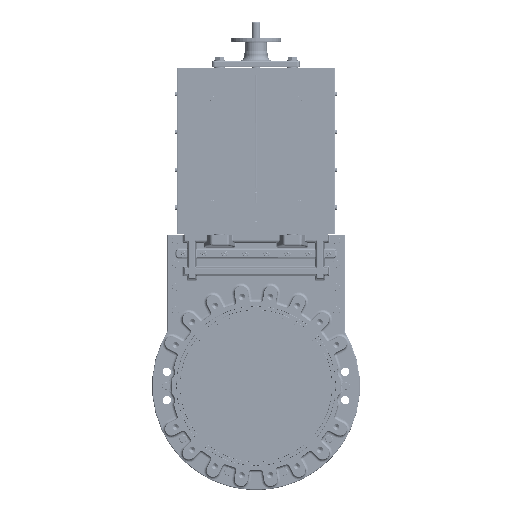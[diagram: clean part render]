
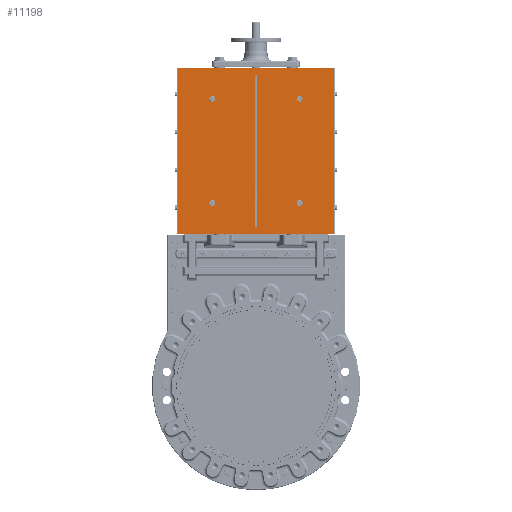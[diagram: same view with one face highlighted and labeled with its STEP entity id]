
A CAD part, top view. The second image highlights one B-rep face of the part: STEP entity #11198.
In plain terms, the highlighted planar face has unit normal (0, 0, 1).
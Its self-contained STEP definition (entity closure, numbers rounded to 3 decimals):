
#5154=PLANE('',#63007);
#11198=ADVANCED_FACE('',(#14570,#14571,#14572,#14573,#14574,#14575),#5154,
 .F.);
#14570=FACE_BOUND('',#19625,.T.);
#14571=FACE_BOUND('',#19626,.T.);
#14572=FACE_BOUND('',#19627,.T.);
#14573=FACE_BOUND('',#19628,.T.);
#14574=FACE_BOUND('',#19629,.T.);
#14575=FACE_BOUND('',#19630,.T.);
#19625=EDGE_LOOP('',(#37362));
#19626=EDGE_LOOP('',(#37363));
#19627=EDGE_LOOP('',(#37364,#37365,#37366,#37367));
#19628=EDGE_LOOP('',(#37368,#37369,#37370,#37371));
#19629=EDGE_LOOP('',(#37372));
#19630=EDGE_LOOP('',(#37373));
#22741=CIRCLE('',#62950,10.);
#22742=CIRCLE('',#62952,10.);
#22743=CIRCLE('',#62954,10.);
#22744=CIRCLE('',#62956,10.);
#22770=CIRCLE('',#63005,5.);
#22771=CIRCLE('',#63006,5.);
#37362=ORIENTED_EDGE('',*,*,#50791,.F.);
#37363=ORIENTED_EDGE('',*,*,#50790,.F.);
#37364=ORIENTED_EDGE('',*,*,#50835,.F.);
#37365=ORIENTED_EDGE('',*,*,#50832,.T.);
#37366=ORIENTED_EDGE('',*,*,#50836,.T.);
#37367=ORIENTED_EDGE('',*,*,#50827,.T.);
#37368=ORIENTED_EDGE('',*,*,#50837,.T.);
#37369=ORIENTED_EDGE('',*,*,#50838,.T.);
#37370=ORIENTED_EDGE('',*,*,#50839,.T.);
#37371=ORIENTED_EDGE('',*,*,#50840,.F.);
#37372=ORIENTED_EDGE('',*,*,#50789,.T.);
#37373=ORIENTED_EDGE('',*,*,#50788,.T.);
#43200=VERTEX_POINT('',#106173);
#43201=VERTEX_POINT('',#106176);
#43202=VERTEX_POINT('',#106179);
#43203=VERTEX_POINT('',#106182);
#43231=VERTEX_POINT('',#106265);
#43232=VERTEX_POINT('',#106267);
#43234=VERTEX_POINT('',#106272);
#43236=VERTEX_POINT('',#106276);
#43237=VERTEX_POINT('',#106285);
#43238=VERTEX_POINT('',#106286);
#43239=VERTEX_POINT('',#106288);
#43240=VERTEX_POINT('',#106290);
#50788=EDGE_CURVE('',#43200,#43200,#22741,.T.);
#50789=EDGE_CURVE('',#43201,#43201,#22742,.T.);
#50790=EDGE_CURVE('',#43202,#43202,#22743,.T.);
#50791=EDGE_CURVE('',#43203,#43203,#22744,.T.);
#50827=EDGE_CURVE('',#43232,#43231,#54139,.T.);
#50832=EDGE_CURVE('',#43234,#43236,#54141,.T.);
#50835=EDGE_CURVE('',#43234,#43231,#54144,.T.);
#50836=EDGE_CURVE('',#43236,#43232,#54145,.T.);
#50837=EDGE_CURVE('',#43237,#43238,#22770,.T.);
#50838=EDGE_CURVE('',#43238,#43239,#54146,.T.);
#50839=EDGE_CURVE('',#43239,#43240,#22771,.T.);
#50840=EDGE_CURVE('',#43237,#43240,#54147,.T.);
#54139=LINE('',#106266,#57417);
#54141=LINE('',#106277,#57419);
#54144=LINE('',#106282,#57422);
#54145=LINE('',#106283,#57423);
#54146=LINE('',#106287,#57424);
#54147=LINE('',#106291,#57425);
#57417=VECTOR('',#77732,1.);
#57419=VECTOR('',#77742,1.);
#57422=VECTOR('',#77749,1.);
#57423=VECTOR('',#77750,1.);
#57424=VECTOR('',#77753,1.);
#57425=VECTOR('',#77756,1.);
#62950=AXIS2_PLACEMENT_3D('',#106172,#77621,#77622);
#62952=AXIS2_PLACEMENT_3D('',#106175,#77625,#77626);
#62954=AXIS2_PLACEMENT_3D('',#106178,#77629,#77630);
#62956=AXIS2_PLACEMENT_3D('',#106181,#77633,#77634);
#63005=AXIS2_PLACEMENT_3D('',#106284,#77751,#77752);
#63006=AXIS2_PLACEMENT_3D('',#106289,#77754,#77755);
#63007=AXIS2_PLACEMENT_3D('',#106292,#77757,#77758);
#77621=DIRECTION('',(0.,0.,-1.));
#77622=DIRECTION('',(-1.,0.,0.));
#77625=DIRECTION('',(0.,0.,-1.));
#77626=DIRECTION('',(-1.,0.,0.));
#77629=DIRECTION('',(0.,0.,1.));
#77630=DIRECTION('',(1.,0.,0.));
#77633=DIRECTION('',(0.,0.,1.));
#77634=DIRECTION('',(1.,0.,0.));
#77732=DIRECTION('',(0.,1.,0.));
#77742=DIRECTION('',(0.,-1.,0.));
#77749=DIRECTION('',(1.,0.,0.));
#77750=DIRECTION('',(1.,0.,0.));
#77751=DIRECTION('',(0.,0.,-1.));
#77752=DIRECTION('',(-1.,0.,0.));
#77753=DIRECTION('',(0.,-1.,0.));
#77754=DIRECTION('',(0.,0.,-1.));
#77755=DIRECTION('',(-1.,0.,0.));
#77756=DIRECTION('',(0.,-1.,0.));
#77757=DIRECTION('',(0.,0.,-1.));
#77758=DIRECTION('',(-1.,0.,0.));
#106172=CARTESIAN_POINT('',(-149.,537.281,100.292));
#106173=CARTESIAN_POINT('',(-159.,537.281,100.292));
#106175=CARTESIAN_POINT('',(-149.,895.281,100.292));
#106176=CARTESIAN_POINT('',(-159.,895.281,100.292));
#106178=CARTESIAN_POINT('',(151.,537.281,100.292));
#106179=CARTESIAN_POINT('',(161.,537.281,100.292));
#106181=CARTESIAN_POINT('',(151.,895.281,100.292));
#106182=CARTESIAN_POINT('',(161.,895.281,100.292));
#106265=CARTESIAN_POINT('',(269.5,1000.281,100.292));
#106266=CARTESIAN_POINT('',(269.5,995.281,100.292));
#106267=CARTESIAN_POINT('',(269.5,432.281,100.292));
#106272=CARTESIAN_POINT('',(-267.5,1000.281,100.292));
#106276=CARTESIAN_POINT('',(-267.5,432.281,100.292));
#106277=CARTESIAN_POINT('',(-267.5,587.281,100.292));
#106282=CARTESIAN_POINT('',(-196.5,1000.281,100.292));
#106283=CARTESIAN_POINT('',(-196.5,432.281,100.292));
#106284=CARTESIAN_POINT('',(1.,973.781,100.292));
#106285=CARTESIAN_POINT('',(-4.,973.781,100.292));
#106286=CARTESIAN_POINT('',(6.,973.781,100.292));
#106287=CARTESIAN_POINT('',(6.,995.281,100.292));
#106288=CARTESIAN_POINT('',(6.,458.781,100.292));
#106289=CARTESIAN_POINT('',(1.,458.781,100.292));
#106290=CARTESIAN_POINT('',(-4.,458.781,100.292));
#106291=CARTESIAN_POINT('',(-4.,995.281,100.292));
#106292=CARTESIAN_POINT('',(-196.5,995.281,100.292));
